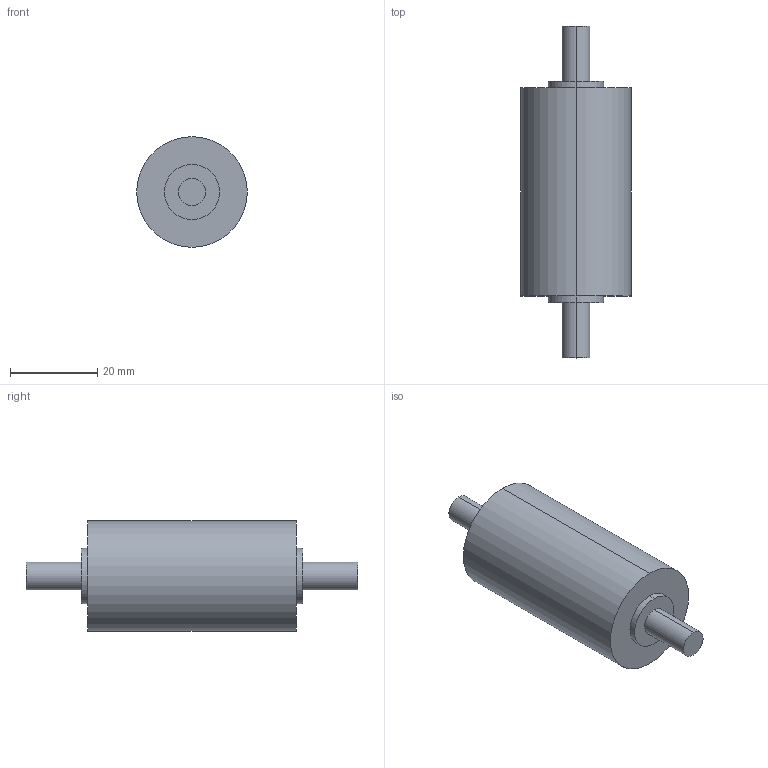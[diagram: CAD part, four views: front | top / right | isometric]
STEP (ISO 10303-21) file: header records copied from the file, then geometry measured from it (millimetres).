
FILE_DESCRIPTION (( 'STEP AP214' ), '1' );
FILE_NAME ('SS1432-250KG-M-M.STEP', '2024-09-04T13:39:36', ( '' ), ( '' ), 'SwSTEP 2.0', 'SolidWorks 2008', '' );
FILE_SCHEMA (( 'AUTOMOTIVE_DESIGN' ));
Length unit declared in the file: inch
Products named in the file (1): SS1432-250KG-M-M
Bounding box: 25.4 x 76.2 x 25.4 mm (x, y, z)
Volume: 25386.8 mm3; surface area: 5452.2 mm2
Topology: 1 solids, 1 shells, 16 faces, 30 edges, 20 vertices
Faces by surface type: cylinder 10, plane 6
Entity records: 441 total; most frequent: DIRECTION 84, CARTESIAN_POINT 67, ORIENTED_EDGE 60, AXIS2_PLACEMENT_3D 37, EDGE_CURVE 30, EDGE_LOOP 20, CIRCLE 20, VERTEX_POINT 20
